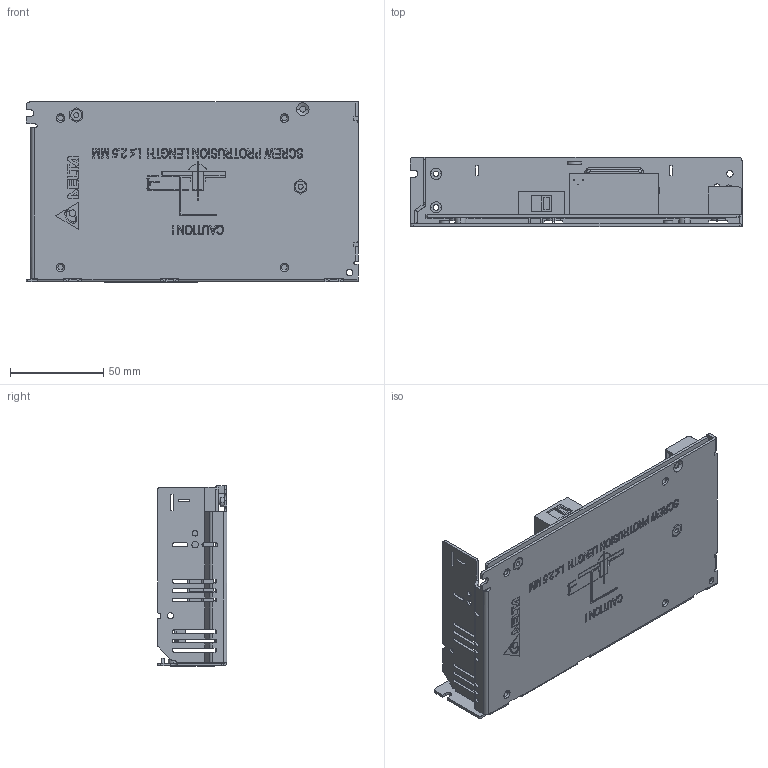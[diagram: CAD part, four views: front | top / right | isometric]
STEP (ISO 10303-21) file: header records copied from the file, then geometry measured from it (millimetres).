
FILE_DESCRIPTION((''),'2;1');
FILE_NAME('PMU-13V155WLBA_ASM','2016-12-29T',('warud'),(''),'PRO/ENGINEER BY PARAMETRIC TECHNOLOGY CORPORATION, 2010180','PRO/ENGINEER BY PARAMETRIC TECHNOLOGY CORPORATION, 2010180','');
FILE_SCHEMA(('CONFIG_CONTROL_DESIGN','SHAPE_APPEARANCE_LAYERS_GROUPS'));
Products named in the file (14): 330332620102_A_BODY_8; 330332620102_A_STUD_5; 330332620102_ASM_8_ASM; PWB_MAINBOARD_7; DCT-2454_2; EE_VR370_1; ASSY_DCT-2454_ASM_2_ASM; 307049757W_A_BODY_1; 307049757W_A_SCREW_1; 307049757W_ASM_1_ASM; 3000059426_SW1-1ST_1; ASSY_PWB-MAINBOARD_ASM_8_ASM; 3268095800_SPEC-LABEL_1; PMU-13V155WLBA_ASM
Assembly tree (20 placements, depth 4):
  PMU-13V155WLBA_ASM
    330332620102_ASM_8_ASM
      330332620102_A_BODY_8
      330332620102_A_STUD_5  x2
    ASSY_PWB-MAINBOARD_ASM_8_ASM
      PWB_MAINBOARD_7
      ASSY_DCT-2454_ASM_2_ASM
        DCT-2454_2
        EE_VR370_1
      307049757W_ASM_1_ASM
        307049757W_A_BODY_1
        307049757W_A_SCREW_1  x7
      3000059426_SW1-1ST_1
    3268095800_SPEC-LABEL_1
Bounding box: 178 x 37.5 x 96.55 mm (x, y, z)
Volume: 80092.1 mm3; surface area: 104950.1 mm2
Topology: 16 solids, 16 shells, 2679 faces, 7203 edges, 4621 vertices
Faces by surface type: plane 1770, cylinder 410, extrusion 309, bspline 88, cone 70, torus 32
Entity records: 69305 total; most frequent: CARTESIAN_POINT 14221, ORIENTED_EDGE 10954, DIRECTION 9464, EDGE_CURVE 5477, VECTOR 4336, LINE 4027, VERTEX_POINT 3570, AXIS2_PLACEMENT_3D 2564
